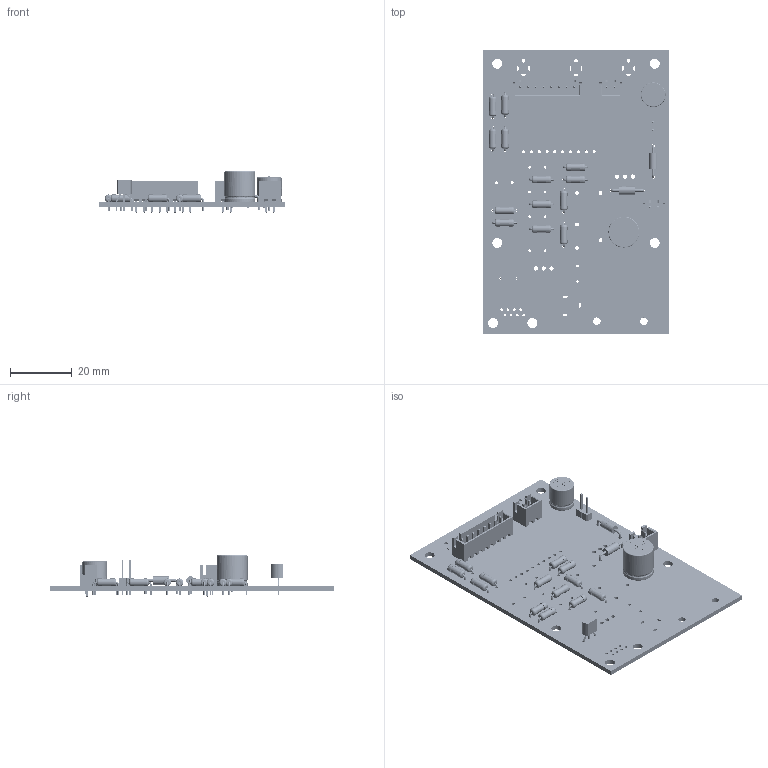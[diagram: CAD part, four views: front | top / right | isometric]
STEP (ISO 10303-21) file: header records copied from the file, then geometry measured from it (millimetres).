
FILE_DESCRIPTION(('KiCad electronic assembly'),'2;1');
FILE_NAME('carrier-native.step','2026-09-11T12:56:59',('Pcbnew'),( 'Kicad'),'Open CASCADE STEP processor 7.8','KiCad to STEP converter' ,'Unknown');
FILE_SCHEMA(('AUTOMOTIVE_DESIGN { 1 0 10303 214 1 1 1 1 }'));
Length unit declared in the file: millimetre
Products named in the file (14): carrier-native 1; JST_XH_B2B-XH-A_1x02_P2.50mm_Vertical; D_DO-41_SOD81_P10.16mm_Horizontal; R_Axial_DIN0207_L6.3mm_D2.5mm_P7.62mm_Horizontal; CP_Radial_D8.0mm_P3.50mm; CP_Radial_D10.0mm_P5.00mm; PinHeader_1x02_P2.54mm_Vertical; JST_XH_B8B-XH-A_1x08_P2.50mm_Vertical; TO-92_Inline_Wide; pitclaw-carrier_pad; pitclaw-carrier_silkscreen; pitclaw-carrier_soldermask; pitclaw-carrier_PCB
Assembly tree (27 placements, depth 2):
  carrier-native 1
    JST_XH_B2B-XH-A_1x02_P2.50mm_Vertical  x2
    D_DO-41_SOD81_P10.16mm_Horizontal  x2
    R_Axial_DIN0207_L6.3mm_D2.5mm_P7.62mm_Horizontal  x13
    CP_Radial_D8.0mm_P3.50mm
    CP_Radial_D10.0mm_P5.00mm
    PinHeader_1x02_P2.54mm_Vertical
    JST_XH_B8B-XH-A_1x08_P2.50mm_Vertical
    TO-92_Inline_Wide
    pitclaw-carrier_pad
    pitclaw-carrier_silkscreen
    pitclaw-carrier_soldermask
    pitclaw-carrier_soldermask
    pitclaw-carrier_PCB
Bounding box: 60 x 92 x 13.4 mm (x, y, z)
Volume: 10620.5 mm3; surface area: 28503.7 mm2
Topology: 335 solids, 527 shells, 2862 faces, 8941 edges, 7040 vertices
Faces by surface type: plane 1817, cylinder 962, torus 60, bspline 13, revolution 10
Full cylindrical faces by diameter (mm): 0.5 x2, 0.6 x26, 0.7 x2, 0.75 x93, 0.8 x70, 0.84 x24, 0.85 x30, 0.89 x16, 0.9 x44, 0.95 x46, 1 x50, 1.05 x32, 1.1 x8, 1.2 x3, 1.25 x15, 1.3 x10, 1.35 x18, 1.4 x12, 1.5 x18, 1.6 x54, 1.7 x2, 1.8 x30, 2 x6, 2.1 x4, 2.2 x4, 2.25 x13, 2.3 x8, 2.4 x2, 2.5 x26, 2.7 x4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
Entity records: 105679 total; most frequent: CARTESIAN_POINT 19668, DIRECTION 16517, ORIENTED_EDGE 13403, EDGE_CURVE 8403, VERTEX_POINT 6702, AXIS2_PLACEMENT_3D 5577, LINE 5353, VECTOR 5353
